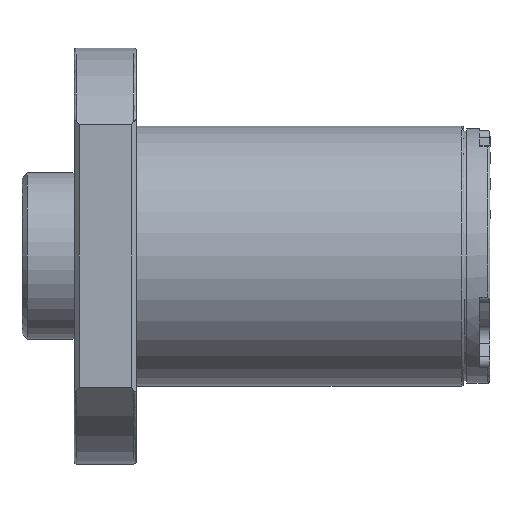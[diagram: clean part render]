
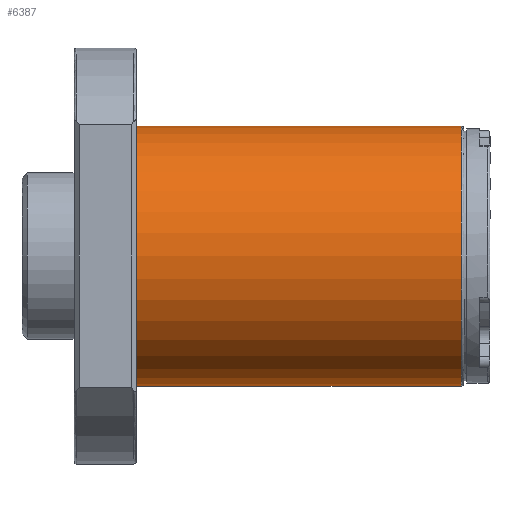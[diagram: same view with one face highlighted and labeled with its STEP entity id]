
A CAD part, front view. The second image highlights one B-rep face of the part: STEP entity #6387.
In plain terms, the highlighted cylindrical face has radius 25 mm (diameter 50 mm), a partial arc.
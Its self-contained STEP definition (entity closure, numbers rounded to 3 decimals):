
#119 = CYLINDRICAL_SURFACE ( 'NONE', #8738, 25. ) ;
#462 = DIRECTION ( 'NONE',  ( -1., 0., 0. ) ) ;
#709 = LINE ( 'NONE', #2005, #2498 ) ;
#908 = DIRECTION ( 'NONE',  ( 1., 0., 0. ) ) ;
#935 = CARTESIAN_POINT ( 'NONE',  ( 74.5, 0., -25. ) ) ;
#1033 = VECTOR ( 'NONE', #462, 1000. ) ;
#1087 = CARTESIAN_POINT ( 'NONE',  ( 0., 0., 0. ) ) ;
#1358 = EDGE_CURVE ( 'NONE', #6240, #1761, #7392, .T. ) ;
#1761 = VERTEX_POINT ( 'NONE', #8747 ) ;
#1799 = DIRECTION ( 'NONE',  ( -1., 0., 0. ) ) ;
#1927 = DIRECTION ( 'NONE',  ( 0., 0., 1. ) ) ;
#2005 = CARTESIAN_POINT ( 'NONE',  ( 0., 0., 25. ) ) ;
#2449 = CARTESIAN_POINT ( 'NONE',  ( 0., 0., -25. ) ) ;
#2498 = VECTOR ( 'NONE', #8166, 1000. ) ;
#2501 = ORIENTED_EDGE ( 'NONE', *, *, #2520, .T. ) ;
#2520 = EDGE_CURVE ( 'NONE', #8835, #7364, #4128, .T. ) ;
#2625 = DIRECTION ( 'NONE',  ( -1., 0., 0. ) ) ;
#3021 = EDGE_CURVE ( 'NONE', #8835, #1761, #6497, .T. ) ;
#3304 = EDGE_CURVE ( 'NONE', #7364, #6240, #709, .T. ) ;
#3527 = AXIS2_PLACEMENT_3D ( 'NONE', #3990, #2625, #1927 ) ;
#3642 = EDGE_LOOP ( 'NONE', ( #4281, #2501, #8877, #5767 ) ) ;
#3990 = CARTESIAN_POINT ( 'NONE',  ( 74.5, 0., 0. ) ) ;
#4128 = CIRCLE ( 'NONE', #3527, 25. ) ;
#4281 = ORIENTED_EDGE ( 'NONE', *, *, #3021, .F. ) ;
#5010 = CARTESIAN_POINT ( 'NONE',  ( 12., 0., 0. ) ) ;
#5767 = ORIENTED_EDGE ( 'NONE', *, *, #1358, .T. ) ;
#5966 = DIRECTION ( 'NONE',  ( 0., 0., 1. ) ) ;
#6036 = FACE_OUTER_BOUND ( 'NONE', #3642, .T. ) ;
#6163 = CARTESIAN_POINT ( 'NONE',  ( 12., 0., 25. ) ) ;
#6240 = VERTEX_POINT ( 'NONE', #6163 ) ;
#6387 = ADVANCED_FACE ( 'NONE', ( #6036 ), #119, .T. ) ;
#6497 = LINE ( 'NONE', #2449, #1033 ) ;
#6990 = DIRECTION ( 'NONE',  ( 0., 0., 1. ) ) ;
#7364 = VERTEX_POINT ( 'NONE', #8851 ) ;
#7392 = CIRCLE ( 'NONE', #7931, 25. ) ;
#7931 = AXIS2_PLACEMENT_3D ( 'NONE', #5010, #908, #6990 ) ;
#8166 = DIRECTION ( 'NONE',  ( -1., 0., 0. ) ) ;
#8738 = AXIS2_PLACEMENT_3D ( 'NONE', #1087, #1799, #5966 ) ;
#8747 = CARTESIAN_POINT ( 'NONE',  ( 12., 0., -25. ) ) ;
#8835 = VERTEX_POINT ( 'NONE', #935 ) ;
#8851 = CARTESIAN_POINT ( 'NONE',  ( 74.5, 0., 25. ) ) ;
#8877 = ORIENTED_EDGE ( 'NONE', *, *, #3304, .T. ) ;
